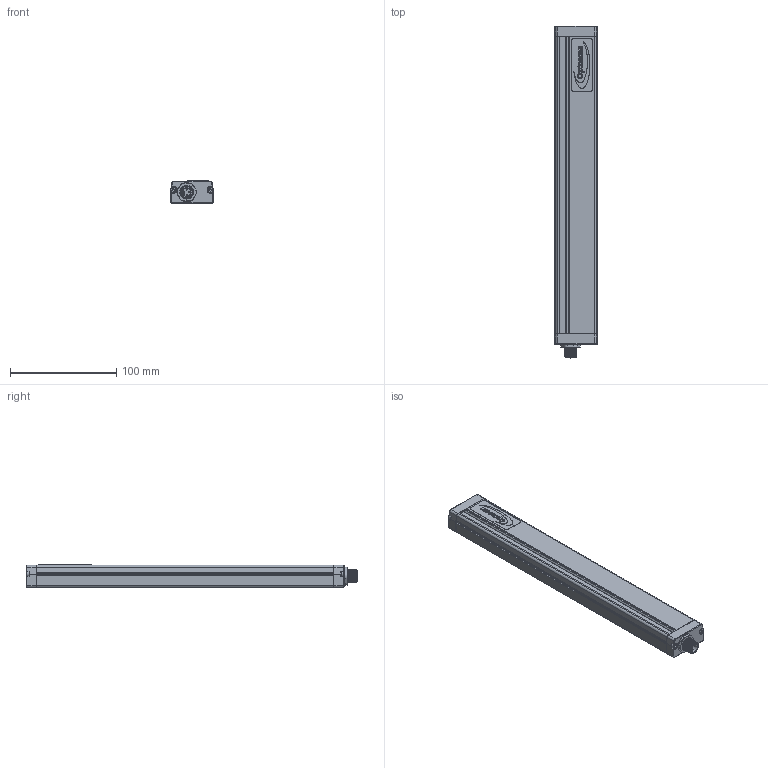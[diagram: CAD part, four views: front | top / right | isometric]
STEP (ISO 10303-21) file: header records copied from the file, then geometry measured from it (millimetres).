
FILE_DESCRIPTION(/* description */ (''),/* implementation_level */ '2;1');
FILE_NAME(/* name */ 'C:\Users\Andrea\SynologyDrive\Optoscan\Libreria Componenti\00 - Barriere\Barriera sorgente\Argo_280_TX.stp',/* time_stamp */ '2022-06-30T15:33:33+02:00',/* author */ ('Andrea'),/* organization */ (''),/* preprocessor_version */ 'ST-DEVELOPER v18.1',/* originating_system */ 'Autodesk Inventor 2022',/* authorisation */ '');
FILE_SCHEMA (('AUTOMOTIVE_DESIGN { 1 0 10303 214 3 1 1 }'));
Length unit declared in the file: millimetre
Products named in the file (1): Argo_280_TX
Bounding box: 40.5 x 312.8 x 20.75 mm (x, y, z)
Volume: 65702.1 mm3; surface area: 82870.2 mm2
Topology: 1 solids, 2 shells, 757 faces, 2033 edges, 1287 vertices
Faces by surface type: plane 338, cylinder 216, bspline 115, torus 74, cone 8, sphere 6
Full cylindrical faces by diameter (mm): 1 x12, 1.2 x4, 2.459 x4, 2.5 x4, 3 x4, 3.5 x4, 5.5 x4, 8 x1, 10 x1, 10.5 x2, 11.75 x8, 12 x1, 12.3 x3, 14.5 x1, 16.7 x1, 17.5 x1
Entity records: 30483 total; most frequent: CARTESIAN_POINT 11236, ORIENTED_EDGE 4050, DIRECTION 3531, EDGE_CURVE 2025, VERTEX_POINT 1287, AXIS2_PLACEMENT_3D 1230, LINE 1071, VECTOR 1071
